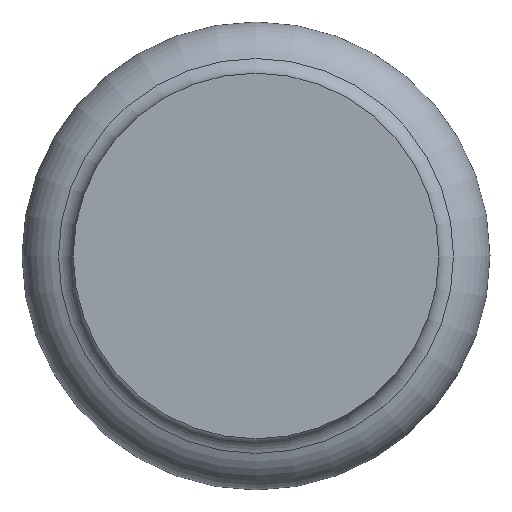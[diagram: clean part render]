
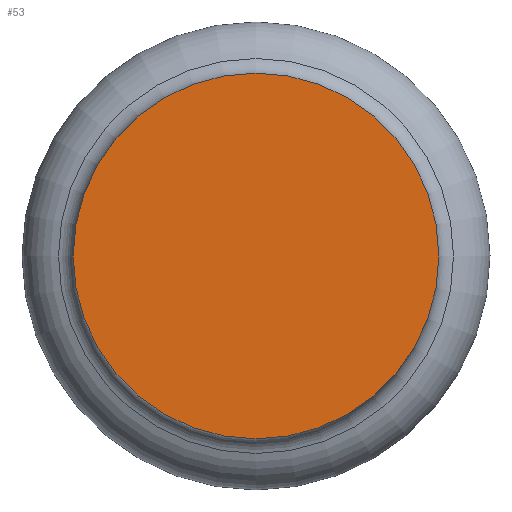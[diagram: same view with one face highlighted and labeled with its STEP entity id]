
A CAD part, front view. The second image highlights one B-rep face of the part: STEP entity #53.
In plain terms, the highlighted planar face has unit normal (0, -1, 0).
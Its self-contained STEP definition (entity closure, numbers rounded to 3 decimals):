
#53=ADVANCED_FACE('',(#64),#66,.T.);
#64=FACE_BOUND('',#65,.T.);
#65=EDGE_LOOP('',(#159));
#66=PLANE('',#67);
#67=AXIS2_PLACEMENT_3D('',#68,#69,#70);
#68=CARTESIAN_POINT('',(0.,-41.,0.));
#69=DIRECTION('',(0.,-1.,0.));
#70=DIRECTION('',(0.,0.,1.));
#159=ORIENTED_EDGE('',*,*,#179,.F.);
#179=EDGE_CURVE('',#189,#189,#190,.T.);
#189=VERTEX_POINT('',#209);
#190=CIRCLE('',#210,8.9);
#209=CARTESIAN_POINT('',(0.,-41.,8.9));
#210=AXIS2_PLACEMENT_3D('',#211,#212,#213);
#211=CARTESIAN_POINT('',(0.,-41.,0.));
#212=DIRECTION('',(0.,1.,0.));
#213=DIRECTION('',(0.,0.,1.));
